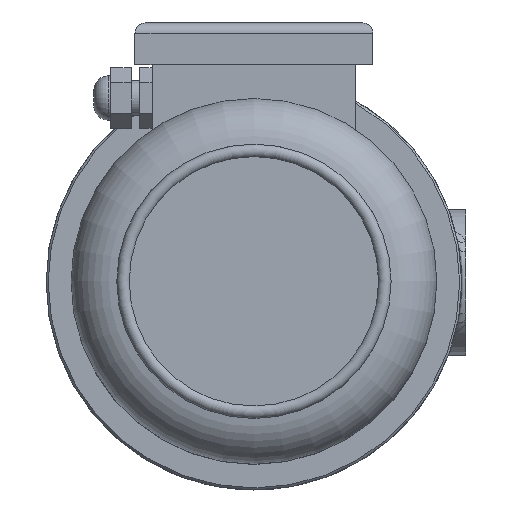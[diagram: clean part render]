
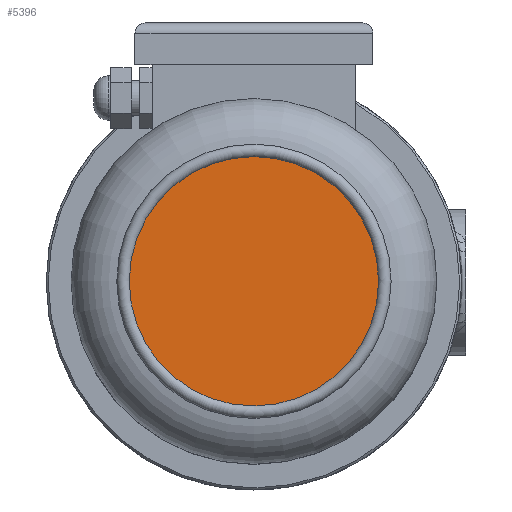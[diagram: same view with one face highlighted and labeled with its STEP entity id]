
A CAD part, top view. The second image highlights one B-rep face of the part: STEP entity #5396.
In plain terms, the highlighted planar face has unit normal (0, 0, 1).
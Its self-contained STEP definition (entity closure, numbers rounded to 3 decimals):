
#368=CIRCLE('',#5874,60.);
#1102=ORIENTED_EDGE('',*,*,#2639,.F.);
#2639=EDGE_CURVE('',#3413,#3413,#368,.T.);
#3413=VERTEX_POINT('',#9363);
#4484=EDGE_LOOP('',(#1102));
#4908=FACE_BOUND('',#4484,.T.);
#5215=PLANE('',#5875);
#5396=ADVANCED_FACE('',(#4908),#5215,.T.);
#5874=AXIS2_PLACEMENT_3D('',#9362,#6674,#6675);
#5875=AXIS2_PLACEMENT_3D('',#9364,#6676,#6677);
#6674=DIRECTION('',(0.,0.,-1.));
#6675=DIRECTION('',(-1.,0.,0.));
#6676=DIRECTION('',(0.,0.,1.));
#6677=DIRECTION('',(1.,0.,0.));
#9362=CARTESIAN_POINT('',(0.,0.,572.584));
#9363=CARTESIAN_POINT('',(-60.,0.,572.584));
#9364=CARTESIAN_POINT('',(-60.,0.,572.584));
